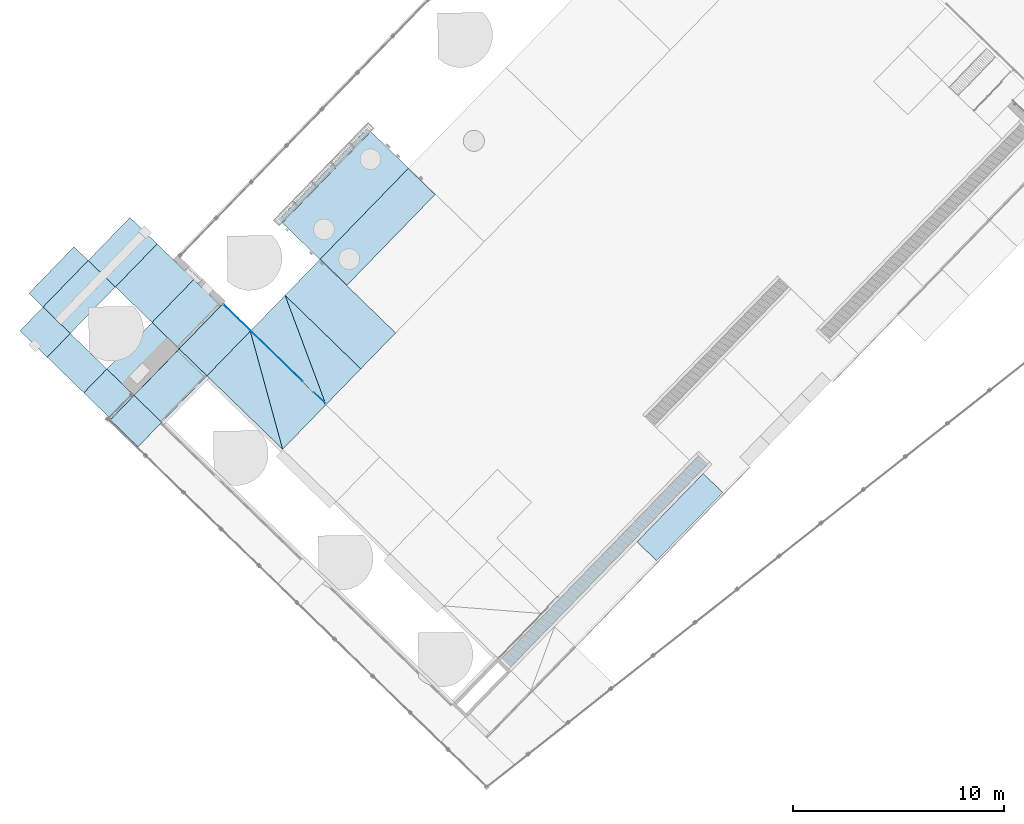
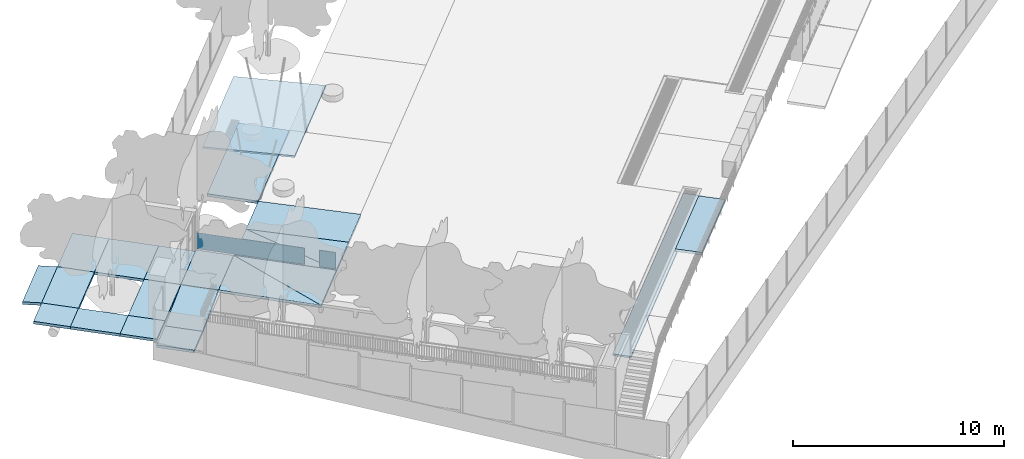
# One storey, part 13 of 37: 21 slabs, 2 plates, 1 element without a shape of its own.
"""IFC2X3 building model written with IfcOpenShell, lengths in centimetres."""

from ifc_helpers import new_model, entity, si_unit, converted_unit, derived_unit, direction, frame, frame_2d, origin, origin_2d_with_axis, place, context, subcontext, project, spatial, polyline, rectangle, outline, extrude, clip, halfspace, source, transform, mapped, material, layer, layer_set, layer_usage, type_object, type_shapes, element, aggregate, save


model = new_model("IFC2X3")

# Units and contexts
model_context = context("Model", 3, precision=0.001, world=origin(), true_north=direction((0.717475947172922, 0.696583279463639)))
body_context = subcontext(model_context, "Body", "Model", "MODEL_VIEW")
ifc_project = project(units=[si_unit("LENGTHUNIT", "METRE", prefix="CENTI"), si_unit("AREAUNIT", "SQUARE_METRE"), si_unit("VOLUMEUNIT", "CUBIC_METRE"), converted_unit("PLANEANGLEUNIT", "DEGREE", entity("IfcRatioMeasure", 0.0174532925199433), si_unit("PLANEANGLEUNIT", "RADIAN"), dimensions=[0, 0, 0, 0, 0, 0, 0]), si_unit("MASSUNIT", "GRAM", prefix="KILO"), derived_unit("MASSDENSITYUNIT", [(si_unit("MASSUNIT", "GRAM", prefix="KILO"), 1), (si_unit("LENGTHUNIT", "METRE"), -3)]), si_unit("TIMEUNIT", "SECOND"), si_unit("FREQUENCYUNIT", "HERTZ"), si_unit("THERMODYNAMICTEMPERATUREUNIT", "DEGREE_CELSIUS"), derived_unit("THERMALTRANSMITTANCEUNIT", [(si_unit("MASSUNIT", "GRAM", prefix="KILO"), 1), (si_unit("THERMODYNAMICTEMPERATUREUNIT", "KELVIN"), -1), (si_unit("TIMEUNIT", "SECOND"), -3)]), derived_unit("VOLUMETRICFLOWRATEUNIT", [(si_unit("LENGTHUNIT", "METRE"), 3), (si_unit("TIMEUNIT", "SECOND"), -1)]), si_unit("ELECTRICCURRENTUNIT", "AMPERE"), si_unit("ELECTRICVOLTAGEUNIT", "VOLT"), si_unit("POWERUNIT", "WATT"), si_unit("FORCEUNIT", "NEWTON", prefix="KILO"), si_unit("ILLUMINANCEUNIT", "LUX"), si_unit("LUMINOUSFLUXUNIT", "LUMEN"), si_unit("LUMINOUSINTENSITYUNIT", "CANDELA"), derived_unit("USERDEFINED", [(si_unit("MASSUNIT", "GRAM", prefix="KILO"), -1), (si_unit("LENGTHUNIT", "METRE"), -2), (si_unit("TIMEUNIT", "SECOND"), 3), (si_unit("LUMINOUSFLUXUNIT", "LUMEN"), 1)]), derived_unit("LINEARVELOCITYUNIT", [(si_unit("LENGTHUNIT", "METRE"), 1), (si_unit("TIMEUNIT", "SECOND"), -1)]), si_unit("PRESSUREUNIT", "PASCAL"), derived_unit("USERDEFINED", [(si_unit("LENGTHUNIT", "METRE"), -2), (si_unit("MASSUNIT", "GRAM", prefix="KILO"), 1), (si_unit("TIMEUNIT", "SECOND"), -2)])], contexts=[model_context])

# Site, building, storey
site_placement = place(None, frame((0.0, 0.0, 0.0), z_axis=(0.0, 0.0, 1.0), x_axis=(0.696583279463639, 0.717475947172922, 0.0)))
site = spatial("IfcSite", under=ifc_project, at=site_placement, Name="Surface", CompositionType="ELEMENT")
building_placement = place(site_placement, origin())
building = spatial("IfcBuilding", under=site, at=building_placement, CompositionType="ELEMENT")
storey_placement = place(building_placement, origin())
storey = spatial("IfcBuildingStorey", under=building, at=storey_placement, Name="Nivel 0.00", CompositionType="ELEMENT", Elevation=0.0)

# Curtain wall, plates
curtain_wall_type = type_object("IfcCurtainWallType", Name="Curtain Wall:REJA_BAJA_100mm", PredefinedType="NOTDEFINED")
curtain_wall_placement = place(storey_placement, origin())
curtain_wall = element("IfcCurtainWall", 1, at=curtain_wall_placement, inside=storey, type_object=curtain_wall_type, Name="Curtain Wall:REJA_BAJA_100mm", ObjectType="Curtain Wall:REJA_BAJA_100mm")
ifc_material_1 = material(Name="REJA_MALLA_ACMA")
plate_type_1 = type_object("IfcPlateType", Name="MALLA ACMA", PredefinedType="CURTAIN_PANEL", material=ifc_material_1)
shared_shape_1 = source(origin(), body_context, "Body", "SweptSolid", [
    extrude(rectangle(XDim=1.0, YDim=77.3537245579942, at=origin_2d_with_axis()), frame((0.0, 0.0, 0.0), z_axis=(0.0, 0.0, 1.0), x_axis=(0.0, 1.0, 0.0)), (0.0, 0.0, 1.0), 94.0),
])
type_shapes(plate_type_1, [shared_shape_1])
plate_1_placement = place(curtain_wall_placement, frame((-1608.1443741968, 121.226356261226, 155.0), z_axis=(0.0, 0.0, 1.0), x_axis=(0.0, 1.0, 0.0)))
plate_1 = element("IfcPlate", 2, at=plate_1_placement, type_object=plate_type_1, material=ifc_material_1, Name="System Panel:MALLA ACMA", ObjectType="MALLA ACMA", context=body_context, shape_type="MappedRepresentation", body=[
    mapped(shared_shape_1, transform((0.0, 0.0, 0.0), scale=1.0)),
])
plate_type_2 = type_object("IfcPlateType", Name="MALLA ACMA", PredefinedType="CURTAIN_PANEL", material=ifc_material_1)
shared_shape_2 = source(origin(), body_context, "Body", "SweptSolid", [
    extrude(rectangle(XDim=1.0, YDim=523.041224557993, at=frame_2d((0.0, 5.6843418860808e-14), x_axis=(1.0, 0.0))), frame((0.0, 0.0, 0.0), z_axis=(0.0, 0.0, 1.0), x_axis=(0.0, 1.0, 0.0)), (0.0, 0.0, 1.0), 94.0),
])
type_shapes(plate_type_2, [shared_shape_2])
plate_2_placement = place(curtain_wall_placement, frame((-1608.1443741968, 496.402555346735, 155.0), z_axis=(0.0, 0.0, 1.0), x_axis=(0.0, 1.0, 0.0)))
plate_2 = element("IfcPlate", 3, at=plate_2_placement, type_object=plate_type_2, material=ifc_material_1, Name="System Panel:MALLA ACMA", ObjectType="MALLA ACMA", context=body_context, shape_type="MappedRepresentation", body=[
    mapped(shared_shape_2, transform((0.0, 0.0, 0.0), scale=1.0)),
])
aggregate(curtain_wall, [plate_1, plate_2])

# Slabs
ifc_material_2 = material(Name="<Unnamed>")
ifc_layer_1 = layer(ifc_material_2, 15.0)
ifc_layer_set_1 = layer_set([ifc_layer_1], Name="Pad:HORMIGON_EXTERIOR_150mm")
ifc_layer_usage_1 = layer_usage(ifc_layer_set_1, "AXIS3", "POSITIVE", 0.0)
slab_1_placement = place(storey_placement, frame((-2213.75710032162, 1364.68235037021, 124.897633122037)))
element("IfcSlab", 4, at=slab_1_placement, inside=storey, material=ifc_layer_usage_1, Name="Pad:HORMIGON_EXTERIOR_150mm", ObjectType="Pad:HORMIGON_EXTERIOR_150mm", PredefinedType="FLOOR", context=body_context, shape_type="SweptSolid", body=[
    extrude(outline(polyline([(153.998504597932, 0.162749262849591), (-153.998504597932, -0.162749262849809), (-153.998504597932, -94.2753859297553), (153.998504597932, -94.2753859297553), (153.998504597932, 0.162749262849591)])), frame((153.998504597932, 93.7435245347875, 15.102366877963), z_axis=(0.0, 0.106072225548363, 0.994358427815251), x_axis=(1.0, 0.0, 0.0)), (0.0, 0.106072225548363, -0.994358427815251), 15.0851037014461),
])
ifc_layer_usage_2 = layer_usage(ifc_layer_set_1, "AXIS3", "POSITIVE", 0.0)
slab_2_placement = place(storey_placement, origin())
element("IfcSlab", 5, at=slab_2_placement, inside=storey, material=ifc_layer_usage_2, Name="Pad:HORMIGON_EXTERIOR_150mm", ObjectType="Pad:HORMIGON_EXTERIOR_150mm", PredefinedType="FLOOR", context=body_context, shape_type="SweptSolid", body=[
    extrude(rectangle(XDim=157.074728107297, YDim=179.964751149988, at=origin_2d_with_axis()), frame((-2292.29447563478, 1274.48829632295, 134.999989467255), z_axis=(0.0, 0.0, 1.0), x_axis=(-1.0, 0.0, 0.0)), (0.0, 0.0, 1.0), 15.0),
])
ifc_layer_usage_3 = layer_usage(ifc_layer_set_1, "AXIS3", "POSITIVE", 0.0)
slab_3_placement = place(storey_placement, origin())
element("IfcSlab", 6, at=slab_3_placement, inside=storey, material=ifc_layer_usage_3, Name="Pad:HORMIGON_EXTERIOR_150mm", ObjectType="Pad:HORMIGON_EXTERIOR_150mm", PredefinedType="FLOOR", context=body_context, shape_type="SweptSolid", body=[
    extrude(rectangle(XDim=307.997395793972, YDim=180.176429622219, at=origin_2d_with_axis()), frame((-2059.75840242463, 1274.5941355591, 134.999989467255), z_axis=(0.0, 0.0, 1.0), x_axis=(-1.0, 0.0, 0.0)), (0.0, 0.0, 1.0), 15.0),
])
ifc_layer_usage_4 = layer_usage(ifc_layer_set_1, "AXIS3", "POSITIVE", 0.0)
slab_4_placement = place(storey_placement, origin())
element("IfcSlab", 7, at=slab_4_placement, inside=storey, material=ifc_layer_usage_4, Name="Pad:HORMIGON_EXTERIOR_150mm", ObjectType="Pad:HORMIGON_EXTERIOR_150mm", PredefinedType="FLOOR", context=body_context, shape_type="SweptSolid", body=[
    extrude(rectangle(XDim=284.526401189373, YDim=180.150517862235, at=frame_2d((1.13686837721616e-13, 0.0), x_axis=(1.0, 0.0))), frame((-1763.49649270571, 1274.5811796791, 134.999989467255), z_axis=(0.0, 0.0, 1.0), x_axis=(-1.0, 0.0, 0.0)), (0.0, 0.0, 1.0), 15.0),
])
ifc_layer_usage_5 = layer_usage(ifc_layer_set_1, "AXIS3", "POSITIVE", 0.0)
slab_5_placement = place(storey_placement, origin())
element("IfcSlab", 8, at=slab_5_placement, inside=storey, material=ifc_layer_usage_5, Name="Pad:HORMIGON_EXTERIOR_150mm", ObjectType="Pad:HORMIGON_EXTERIOR_150mm", PredefinedType="FLOOR", context=body_context, shape_type="SweptSolid", body=[
    extrude(rectangle(XDim=242.445038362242, YDim=157.070951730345, at=origin_2d_with_axis()), frame((-2292.2925874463, 1063.28340156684, 134.999989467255), z_axis=(0.0, 0.0, 1.0), x_axis=(0.0, -1.0, 0.0)), (0.0, 0.0, 1.0), 15.0),
])
ifc_layer_usage_6 = layer_usage(ifc_layer_set_1, "AXIS3", "POSITIVE", 0.0)
slab_6_placement = place(storey_placement, origin())
element("IfcSlab", 9, at=slab_6_placement, inside=storey, material=ifc_layer_usage_6, Name="Pad:HORMIGON_EXTERIOR_150mm", ObjectType="Pad:HORMIGON_EXTERIOR_150mm", PredefinedType="FLOOR", context=body_context, shape_type="SweptSolid", body=[
    extrude(rectangle(XDim=284.526412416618, YDim=242.445038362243, at=frame_2d((-2.1316282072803e-13, 0.0), x_axis=(1.0, 0.0))), frame((-1763.49649831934, 1063.28340156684, 134.999989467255), z_axis=(0.0, 0.0, 1.0), x_axis=(-1.0, 0.0, 0.0)), (0.0, 0.0, 1.0), 15.0),
])
ifc_layer_usage_7 = layer_usage(ifc_layer_set_1, "AXIS3", "POSITIVE", 0.0)
slab_7_placement = place(storey_placement, origin())
element("IfcSlab", 10, at=slab_7_placement, inside=storey, material=ifc_layer_usage_7, Name="Pad:HORMIGON_EXTERIOR_150mm", ObjectType="Pad:HORMIGON_EXTERIOR_150mm", PredefinedType="FLOOR", context=body_context, shape_type="SweptSolid", body=[
    extrude(rectangle(XDim=284.526412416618, YDim=179.548119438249, at=frame_2d((1.13686837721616e-13, 0.0), x_axis=(1.0, 0.0))), frame((-1763.49649831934, 852.286823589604, 134.999989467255)), (0.0, 0.0, 1.0), 15.0),
])
ifc_layer_usage_8 = layer_usage(ifc_layer_set_1, "AXIS3", "POSITIVE", 0.0)
slab_8_placement = place(storey_placement, origin())
element("IfcSlab", 11, at=slab_8_placement, inside=storey, material=ifc_layer_usage_8, Name="Pad:HORMIGON_EXTERIOR_150mm", ObjectType="Pad:HORMIGON_EXTERIOR_150mm", PredefinedType="FLOOR", context=body_context, shape_type="SweptSolid", body=[
    extrude(rectangle(XDim=179.99999999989, YDim=307.997395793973, at=frame_2d((0.0, 2.27373675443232e-13), x_axis=(1.0, 0.0))), frame((-2059.75840242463, 852.060882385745, 134.999989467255), z_axis=(0.0, 0.0, 1.0), x_axis=(0.0, -1.0, 0.0)), (0.0, 0.0, 1.0), 15.0),
])
ifc_layer_usage_9 = layer_usage(ifc_layer_set_1, "AXIS3", "POSITIVE", 0.0)
slab_9_placement = place(storey_placement, origin())
element("IfcSlab", 12, at=slab_9_placement, inside=storey, material=ifc_layer_usage_9, Name="Pad:HORMIGON_EXTERIOR_150mm", ObjectType="Pad:HORMIGON_EXTERIOR_150mm", PredefinedType="FLOOR", context=body_context, shape_type="SweptSolid", body=[
    extrude(rectangle(XDim=157.070951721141, YDim=179.548118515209, at=origin_2d_with_axis()), frame((-2292.29258745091, 852.286823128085, 134.999989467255), z_axis=(0.0, 0.0, 1.0), x_axis=(-1.0, 0.0, 0.0)), (0.0, 0.0, 1.0), 15.0),
])
ifc_layer_usage_10 = layer_usage(ifc_layer_set_1, "AXIS3", "POSITIVE", 0.0)
slab_10_placement = place(storey_placement, origin())
element("IfcSlab", 13, at=slab_10_placement, inside=storey, material=ifc_layer_usage_10, Name="Pad:HORMIGON_EXTERIOR_150mm", ObjectType="Pad:HORMIGON_EXTERIOR_150mm", PredefinedType="FLOOR", context=body_context, shape_type="SweptSolid", body=[
    extrude(rectangle(XDim=162.070940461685, YDim=183.411649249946, at=origin_2d_with_axis()), frame((-2294.79258182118, 670.355057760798, 104.999989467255), z_axis=(0.0, 0.0, 1.0), x_axis=(-1.0, 0.0, 0.0)), (0.0, 0.0, 1.0), 15.0),
])
ifc_layer_usage_11 = layer_usage(ifc_layer_set_1, "AXIS3", "POSITIVE", 0.0)
slab_11_placement = place(storey_placement, frame((-2213.75711159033, 578.644846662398, 104.929002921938)))
element("IfcSlab", 14, at=slab_11_placement, inside=storey, material=ifc_layer_usage_11, Name="Pad:HORMIGON_EXTERIOR_150mm", ObjectType="Pad:HORMIGON_EXTERIOR_150mm", PredefinedType="FLOOR", context=body_context, shape_type="SweptSolid", body=[
    extrude(rectangle(XDim=183.867917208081, YDim=309.457546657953, at=frame_2d((154.728773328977, 0.0), x_axis=(0.0, -1.0))), frame((0.0, 91.9339586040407, 15.0709865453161), z_axis=(-0.0969438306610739, 0.0, 0.995289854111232), x_axis=(0.995289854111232, 0.0, 0.0969438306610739)), (-0.0969438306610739, 0.0, -0.995289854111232), 15.0709865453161),
])
ifc_layer_usage_12 = layer_usage(ifc_layer_set_1, "AXIS3", "POSITIVE", 0.0)
slab_12_placement = place(storey_placement, origin())
element("IfcSlab", 15, at=slab_12_placement, inside=storey, material=ifc_layer_usage_12, Name="Pad:HORMIGON_EXTERIOR_150mm", ObjectType="Pad:HORMIGON_EXTERIOR_150mm", PredefinedType="FLOOR", context=body_context, shape_type="SweptSolid", body=[
    extrude(rectangle(XDim=295.225272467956, YDim=183.863530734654, at=origin_2d_with_axis()), frame((-1758.14451888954, 670.580998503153, 134.999989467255)), (0.0, 0.0, 1.0), 15.0),
])
ifc_layer_usage_13 = layer_usage(ifc_layer_set_1, "AXIS3", "POSITIVE", 0.0)
slab_13_placement = place(storey_placement, frame((-1048.7472311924, -1565.30786144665, 134.998210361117)))
element("IfcSlab", 16, at=slab_13_placement, inside=storey, material=ifc_layer_usage_13, Name="Pad:HORMIGON_EXTERIOR_150mm", ObjectType="Pad:HORMIGON_EXTERIOR_150mm", PredefinedType="FLOOR", context=body_context, shape_type="SweptSolid", body=[
    extrude(rectangle(XDim=451.774699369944, YDim=129.866856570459, at=frame_2d((0.0, -64.9334282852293), x_axis=(-1.0, 0.0))), frame((225.887349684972, 129.851455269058, 15.0017791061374), z_axis=(0.0, 0.0154003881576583, 0.999881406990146), x_axis=(1.0, 0.0, 0.0)), (0.0, 0.0154003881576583, -0.999881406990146), 15.0017791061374),
])
ifc_layer_usage_14 = layer_usage(ifc_layer_set_1, "AXIS3", "POSITIVE", 0.0)
slab_14_placement = place(storey_placement, origin())
element("IfcSlab", 17, at=slab_14_placement, inside=storey, material=ifc_layer_usage_14, Name="Pad:HORMIGON_EXTERIOR_150mm", ObjectType="Pad:HORMIGON_EXTERIOR_150mm", PredefinedType="FLOOR", context=body_context, shape_type="SweptSolid", body=[
    extrude(rectangle(XDim=603.991155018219, YDim=249.44893641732, at=frame_2d((-5.6843418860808e-14, 0.0), x_axis=(1.0, 0.0))), frame((-833.519464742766, 703.373701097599, 124.999989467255)), (0.0, 0.0, 1.0), 15.0),
])
ifc_layer_usage_15 = layer_usage(ifc_layer_set_1, "AXIS3", "POSITIVE", 0.0)
slab_15_placement = place(storey_placement, frame((-1373.01963434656, 77.6410189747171, 124.997001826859)))
element("IfcSlab", 18, at=slab_15_placement, inside=storey, material=ifc_layer_usage_15, Name="Pad:HORMIGON_EXTERIOR_150mm", ObjectType="Pad:HORMIGON_EXTERIOR_150mm", PredefinedType="FLOOR", context=body_context, shape_type="SweptSolid", body=[
    extrude(rectangle(XDim=501.108002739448, YDim=237.504592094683, at=frame_2d((0.0, -250.554001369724), x_axis=(0.0, 1.0))), frame((118.752296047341, 0.0, 25.0029876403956), z_axis=(0.0, -0.0199557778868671, -0.99980086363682), x_axis=(1.0, 0.0, 0.0)), (0.0, -0.0199557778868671, 0.99980086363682), 15.0029876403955),
])
ifc_layer_usage_16 = layer_usage(ifc_layer_set_1, "AXIS3", "POSITIVE", 0.0)
slab_16_placement = place(storey_placement, frame((-1610.5470332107, 77.5335004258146, 124.997003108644)))
element("IfcSlab", 19, at=slab_16_placement, inside=storey, material=ifc_layer_usage_16, Name="Pad:HORMIGON_EXTERIOR_150mm", ObjectType="Pad:HORMIGON_EXTERIOR_150mm", PredefinedType="FLOOR", context=body_context, shape_type="SweptSolid", body=[
    extrude(outline(polyline([(-237.527653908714, 0.0), (0.0, -501.215500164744), (0.0, 0.0), (-237.527653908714, 0.0)])), frame((237.527653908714, 0.0, 25.0029863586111), z_axis=(0.0, -0.0199514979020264, -0.999800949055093), x_axis=(1.0, 0.0, 0.0)), (0.0, -0.0199514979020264, 0.999800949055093), 15.0029863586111),
])
ifc_layer_usage_17 = layer_usage(ifc_layer_set_1, "AXIS3", "POSITIVE", 0.0)
slab_17_placement = place(storey_placement, frame((-1610.52371636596, 77.5826923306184, 124.986699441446)))
element("IfcSlab", 20, at=slab_17_placement, inside=storey, material=ifc_layer_usage_17, Name="Pad:HORMIGON_EXTERIOR_150mm", ObjectType="Pad:HORMIGON_EXTERIOR_150mm", PredefinedType="FLOOR", context=body_context, shape_type="SweptSolid", body=[
    extrude(outline(polyline([(0.0, 0.0), (0.0, -501.066540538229), (237.714766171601, 0.0), (0.0, 0.0)])), frame((0.0, 501.066540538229, 25.0132900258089), z_axis=(0.0420672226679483, 0.0, 0.999114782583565), x_axis=(0.999114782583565, 0.0, -0.0420672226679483)), (0.0420672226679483, 0.0, -0.999114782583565), 15.0132900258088),
])
ifc_layer_usage_18 = layer_usage(ifc_layer_set_1, "AXIS3", "POSITIVE", 0.0)
slab_18_placement = place(storey_placement, frame((-1905.75707844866, 77.5335207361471, 131.999720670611)))
element("IfcSlab", 21, at=slab_18_placement, inside=storey, material=ifc_layer_usage_18, Name="Pad:HORMIGON_EXTERIOR_150mm", ObjectType="Pad:HORMIGON_EXTERIOR_150mm", PredefinedType="FLOOR", context=body_context, shape_type="SweptSolid", body=[
    extrude(outline(polyline([(295.233362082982, 0.0), (0.0, 0.0), (0.0, -501.124692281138), (295.233362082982, 0.0)])), frame((0.0, 501.115712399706, 18.0002687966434), z_axis=(0.0, -0.00598653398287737, 0.999982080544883), x_axis=(1.0, 0.0, 0.0)), (0.0, -0.00598653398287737, -0.999982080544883), 15.0002687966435),
])
ifc_layer_usage_19 = layer_usage(ifc_layer_set_1, "AXIS3", "POSITIVE", 0.0)
slab_19_placement = place(storey_placement, frame((-1905.73824514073, 77.5654875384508, 131.999404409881)))
element("IfcSlab", 22, at=slab_19_placement, inside=storey, material=ifc_layer_usage_19, Name="Pad:HORMIGON_EXTERIOR_150mm", ObjectType="Pad:HORMIGON_EXTERIOR_150mm", PredefinedType="FLOOR", context=body_context, shape_type="SweptSolid", body=[
    extrude(outline(polyline([(0.023318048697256, -501.115732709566), (0.0233180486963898, -0.0319871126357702), (-295.206453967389, -0.0319871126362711), (0.023318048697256, -501.115732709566)])), frame((295.191211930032, -0.0319871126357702, 18.0005850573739), z_axis=(0.0101617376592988, 0.0, -0.999948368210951), x_axis=(0.999948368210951, 0.0, 0.0101617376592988)), (-0.0101617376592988, 0.0, 0.999948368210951), 15.0007745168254),
])
ifc_material_3 = material(Name="Concrete, Precast")
ifc_layer_2 = layer(ifc_material_3, 10.0)
ifc_layer_set_2 = layer_set([ifc_layer_2], Name="Floor:ARQ_LOSA_HOMRIGON_100mm")
ifc_layer_usage_20 = layer_usage(ifc_layer_set_2, "AXIS3", "POSITIVE", 0.0)
slab_20_placement = place(storey_placement, origin())
element("IfcSlab", 23, at=slab_20_placement, inside=storey, material=ifc_layer_usage_20, Name="Floor:ARQ_LOSA_HOMRIGON_100mm", ObjectType="Floor:ARQ_LOSA_HOMRIGON_100mm", PredefinedType="FLOOR", context=body_context, shape_type="Clipping", body=[
    clip(clip(extrude(rectangle(XDim=450.693909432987, YDim=600.000000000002, at=frame_2d((0.0, 5.6843418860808e-14), x_axis=(1.0, 0.0))), frame((-833.519476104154, 625.99222568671, 418.5), z_axis=(0.0, -0.0554700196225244, -0.998460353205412), x_axis=(0.0, 0.998460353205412, -0.0554700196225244)), (0.0554700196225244, 0.0, 0.998460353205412), 10.0308641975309), halfspace(frame((-833.519476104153, 400.992225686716, 431.0), z_axis=(0.0, 0.0554700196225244, 0.998460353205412), x_axis=(0.0, -0.998460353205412, 0.0554700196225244)), False)), halfspace(frame((-833.519476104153, 400.992225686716, 420.984579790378), z_axis=(0.0, -0.0554700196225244, -0.998460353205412), x_axis=(0.0, 0.998460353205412, -0.0554700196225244)), False)),
])
ifc_layer_usage_21 = layer_usage(ifc_layer_set_2, "AXIS3", "POSITIVE", 0.0)
slab_21_placement = place(storey_placement, origin())
element("IfcSlab", 24, at=slab_21_placement, inside=storey, material=ifc_layer_usage_21, Name="Floor:ARQ_LOSA_HOMRIGON_100mm", ObjectType="Floor:ARQ_LOSA_HOMRIGON_100mm", PredefinedType="FLOOR", context=body_context, shape_type="SweptSolid", body=[
    extrude(rectangle(XDim=89.9911451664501, YDim=1368.78385907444, at=frame_2d((-1.10134124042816e-13, 1.13686837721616e-13), x_axis=(1.0, 0.0))), frame((-1221.36522060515, -1390.05042983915, 110.0), z_axis=(0.0, 0.0, -1.0), x_axis=(0.0, 1.0, 0.0)), (0.0, 0.0, 1.0), 10.0),
])

save(model, "model.ifc")
